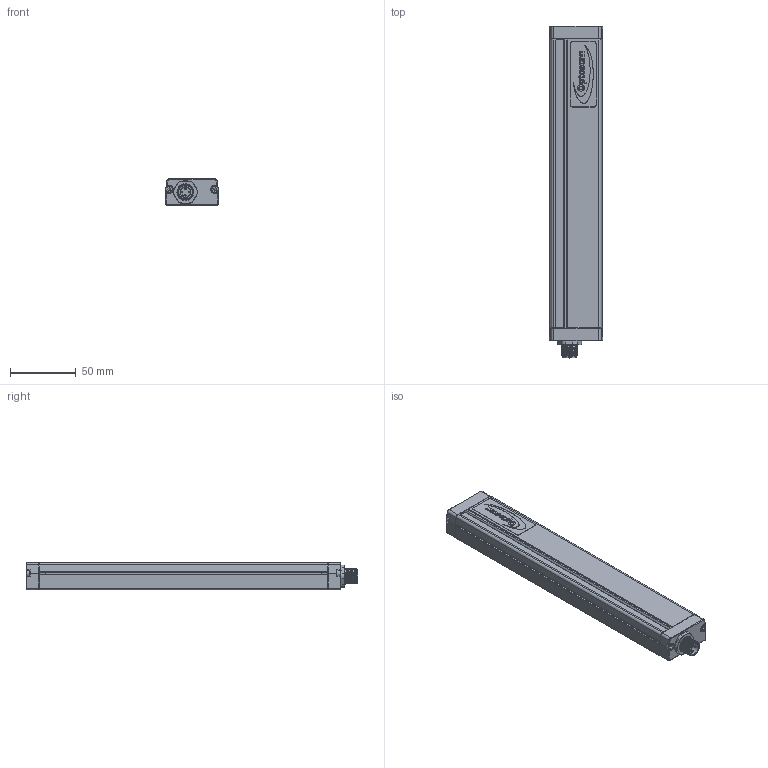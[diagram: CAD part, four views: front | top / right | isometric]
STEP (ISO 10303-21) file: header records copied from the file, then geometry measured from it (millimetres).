
FILE_DESCRIPTION(/* description */ (''),/* implementation_level */ '2;1');
FILE_NAME(/* name */ 'C:\Users\Andrea\SynologyDrive\Optoscan\Libreria Componenti\00 - Barriere\Barriera sorgente\Argo_220_TX.stp',/* time_stamp */ '2022-06-30T15:33:15+02:00',/* author */ ('Andrea'),/* organization */ (''),/* preprocessor_version */ 'ST-DEVELOPER v18.1',/* originating_system */ 'Autodesk Inventor 2022',/* authorisation */ '');
FILE_SCHEMA (('AUTOMOTIVE_DESIGN { 1 0 10303 214 3 1 1 }'));
Length unit declared in the file: millimetre
Products named in the file (1): Argo_220_TX
Bounding box: 40.5 x 252.8 x 20.75 mm (x, y, z)
Volume: 54026.6 mm3; surface area: 67310 mm2
Topology: 1 solids, 2 shells, 757 faces, 2033 edges, 1287 vertices
Faces by surface type: plane 338, cylinder 216, bspline 115, torus 74, cone 8, sphere 6
Full cylindrical faces by diameter (mm): 1 x12, 1.2 x4, 2.459 x4, 2.5 x4, 3 x4, 3.5 x4, 5.5 x4, 8 x1, 10 x1, 10.5 x2, 11.75 x8, 12 x1, 12.3 x3, 14.5 x1, 16.7 x1, 17.5 x1
Entity records: 30483 total; most frequent: CARTESIAN_POINT 11236, ORIENTED_EDGE 4050, DIRECTION 3531, EDGE_CURVE 2025, VERTEX_POINT 1287, AXIS2_PLACEMENT_3D 1230, LINE 1071, VECTOR 1071
